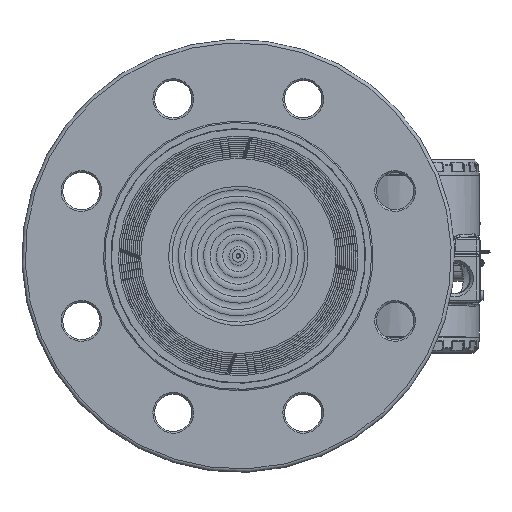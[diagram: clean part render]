
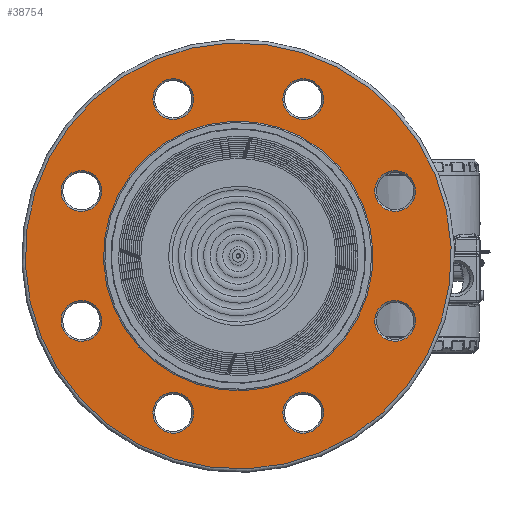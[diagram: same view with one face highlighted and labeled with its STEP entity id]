
A CAD part, top view. The second image highlights one B-rep face of the part: STEP entity #38754.
In plain terms, the highlighted planar face has unit normal (0, 0, 1) as drawn and (-1, 0, 0) by its records, which use the part's own axes.
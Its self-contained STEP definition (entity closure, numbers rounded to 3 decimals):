
#753=FACE_BOUND('',#6589,.T.);
#754=FACE_BOUND('',#6590,.T.);
#755=FACE_BOUND('',#6591,.T.);
#756=FACE_BOUND('',#6592,.T.);
#757=FACE_BOUND('',#6593,.T.);
#758=FACE_BOUND('',#6594,.T.);
#759=FACE_BOUND('',#6595,.T.);
#760=FACE_BOUND('',#6596,.T.);
#761=FACE_BOUND('',#6597,.T.);
#2735=PLANE('',#43057);
#3944=FACE_OUTER_BOUND('',#6588,.T.);
#6588=EDGE_LOOP('',(#29630,#29631));
#6589=EDGE_LOOP('',(#29632));
#6590=EDGE_LOOP('',(#29633));
#6591=EDGE_LOOP('',(#29634));
#6592=EDGE_LOOP('',(#29635));
#6593=EDGE_LOOP('',(#29636,#29637));
#6594=EDGE_LOOP('',(#29638));
#6595=EDGE_LOOP('',(#29639));
#6596=EDGE_LOOP('',(#29640));
#6597=EDGE_LOOP('',(#29641));
#12424=CIRCLE('',#43056,12.);
#12425=CIRCLE('',#43058,125.5);
#12426=CIRCLE('',#43059,125.5);
#12427=CIRCLE('',#43060,12.);
#12428=CIRCLE('',#43061,12.);
#12429=CIRCLE('',#43062,12.);
#12430=CIRCLE('',#43063,12.);
#12431=CIRCLE('',#43064,79.4);
#12432=CIRCLE('',#43065,79.4);
#12433=CIRCLE('',#43066,12.);
#12434=CIRCLE('',#43067,12.);
#12435=CIRCLE('',#43068,12.);
#16915=VERTEX_POINT('',#69073);
#16916=VERTEX_POINT('',#69077);
#16917=VERTEX_POINT('',#69078);
#16918=VERTEX_POINT('',#69081);
#16919=VERTEX_POINT('',#69083);
#16920=VERTEX_POINT('',#69085);
#16921=VERTEX_POINT('',#69087);
#16922=VERTEX_POINT('',#69089);
#16923=VERTEX_POINT('',#69090);
#16924=VERTEX_POINT('',#69093);
#16925=VERTEX_POINT('',#69095);
#16926=VERTEX_POINT('',#69097);
#21394=EDGE_CURVE('',#16915,#16915,#12424,.T.);
#21396=EDGE_CURVE('',#16916,#16917,#12425,.T.);
#21397=EDGE_CURVE('',#16917,#16916,#12426,.T.);
#21398=EDGE_CURVE('',#16918,#16918,#12427,.T.);
#21399=EDGE_CURVE('',#16919,#16919,#12428,.T.);
#21400=EDGE_CURVE('',#16920,#16920,#12429,.T.);
#21401=EDGE_CURVE('',#16921,#16921,#12430,.T.);
#21402=EDGE_CURVE('',#16922,#16923,#12431,.T.);
#21403=EDGE_CURVE('',#16923,#16922,#12432,.T.);
#21404=EDGE_CURVE('',#16924,#16924,#12433,.T.);
#21405=EDGE_CURVE('',#16925,#16925,#12434,.T.);
#21406=EDGE_CURVE('',#16926,#16926,#12435,.T.);
#29630=ORIENTED_EDGE('',*,*,#21396,.F.);
#29631=ORIENTED_EDGE('',*,*,#21397,.F.);
#29632=ORIENTED_EDGE('',*,*,#21398,.F.);
#29633=ORIENTED_EDGE('',*,*,#21399,.F.);
#29634=ORIENTED_EDGE('',*,*,#21400,.F.);
#29635=ORIENTED_EDGE('',*,*,#21401,.F.);
#29636=ORIENTED_EDGE('',*,*,#21402,.T.);
#29637=ORIENTED_EDGE('',*,*,#21403,.T.);
#29638=ORIENTED_EDGE('',*,*,#21404,.F.);
#29639=ORIENTED_EDGE('',*,*,#21405,.F.);
#29640=ORIENTED_EDGE('',*,*,#21406,.F.);
#29641=ORIENTED_EDGE('',*,*,#21394,.F.);
#38754=ADVANCED_FACE('',(#3944,#753,#754,#755,#756,#757,#758,#759,#760,
#761),#2735,.T.);
#43056=AXIS2_PLACEMENT_3D('',#69074,#50989,#50990);
#43057=AXIS2_PLACEMENT_3D('',#69076,#50992,#50993);
#43058=AXIS2_PLACEMENT_3D('',#69079,#50994,#50995);
#43059=AXIS2_PLACEMENT_3D('',#69080,#50996,#50997);
#43060=AXIS2_PLACEMENT_3D('',#69082,#50998,#50999);
#43061=AXIS2_PLACEMENT_3D('',#69084,#51000,#51001);
#43062=AXIS2_PLACEMENT_3D('',#69086,#51002,#51003);
#43063=AXIS2_PLACEMENT_3D('',#69088,#51004,#51005);
#43064=AXIS2_PLACEMENT_3D('',#69091,#51006,#51007);
#43065=AXIS2_PLACEMENT_3D('',#69092,#51008,#51009);
#43066=AXIS2_PLACEMENT_3D('',#69094,#51010,#51011);
#43067=AXIS2_PLACEMENT_3D('',#69096,#51012,#51013);
#43068=AXIS2_PLACEMENT_3D('',#69098,#51014,#51015);
#50989=DIRECTION('center_axis',(-1.,0.,0.));
#50990=DIRECTION('ref_axis',(0.,-0.707,-0.707));
#50992=DIRECTION('center_axis',(-1.,0.,0.));
#50993=DIRECTION('ref_axis',(0.,0.,1.));
#50994=DIRECTION('center_axis',(1.,0.,0.));
#50995=DIRECTION('ref_axis',(0.,1.,0.));
#50996=DIRECTION('center_axis',(1.,0.,0.));
#50997=DIRECTION('ref_axis',(0.,1.,0.));
#50998=DIRECTION('center_axis',(-1.,0.,0.));
#50999=DIRECTION('ref_axis',(0.,-1.,0.));
#51000=DIRECTION('center_axis',(-1.,0.,0.));
#51001=DIRECTION('ref_axis',(0.,0.,1.));
#51002=DIRECTION('center_axis',(-1.,0.,0.));
#51003=DIRECTION('ref_axis',(0.,1.,0.));
#51004=DIRECTION('center_axis',(-1.,0.,0.));
#51005=DIRECTION('ref_axis',(0.,0.,-1.));
#51006=DIRECTION('center_axis',(1.,0.,0.));
#51007=DIRECTION('ref_axis',(0.,1.,0.));
#51008=DIRECTION('center_axis',(1.,0.,0.));
#51009=DIRECTION('ref_axis',(0.,1.,0.));
#51010=DIRECTION('center_axis',(-1.,0.,0.));
#51011=DIRECTION('ref_axis',(0.,0.707,-0.707));
#51012=DIRECTION('center_axis',(-1.,0.,0.));
#51013=DIRECTION('ref_axis',(0.,0.707,0.707));
#51014=DIRECTION('center_axis',(-1.,0.,0.));
#51015=DIRECTION('ref_axis',(0.,-0.707,0.707));
#69073=CARTESIAN_POINT('',(2.,79.196,79.196));
#69074=CARTESIAN_POINT('Origin',(2.,70.711,70.711));
#69076=CARTESIAN_POINT('Origin',(2.,102.45,0.));
#69077=CARTESIAN_POINT('',(2.,125.5,0.));
#69078=CARTESIAN_POINT('',(2.,0.,125.5));
#69079=CARTESIAN_POINT('Origin',(2.,0.,0.));
#69080=CARTESIAN_POINT('Origin',(2.,0.,0.));
#69081=CARTESIAN_POINT('',(2.,112.,0.));
#69082=CARTESIAN_POINT('Origin',(2.,100.,0.));
#69083=CARTESIAN_POINT('',(2.,0.,-112.));
#69084=CARTESIAN_POINT('Origin',(2.,0.,-100.));
#69085=CARTESIAN_POINT('',(2.,-112.,0.));
#69086=CARTESIAN_POINT('Origin',(2.,-100.,0.));
#69087=CARTESIAN_POINT('',(2.,0.,112.));
#69088=CARTESIAN_POINT('Origin',(2.,0.,100.));
#69089=CARTESIAN_POINT('',(2.,79.4,0.));
#69090=CARTESIAN_POINT('',(2.,0.,79.4));
#69091=CARTESIAN_POINT('Origin',(2.,0.,0.));
#69092=CARTESIAN_POINT('Origin',(2.,0.,0.));
#69093=CARTESIAN_POINT('',(2.,-79.196,79.196));
#69094=CARTESIAN_POINT('Origin',(2.,-70.711,70.711));
#69095=CARTESIAN_POINT('',(2.,-79.196,-79.196));
#69096=CARTESIAN_POINT('Origin',(2.,-70.711,-70.711));
#69097=CARTESIAN_POINT('',(2.,79.196,-79.196));
#69098=CARTESIAN_POINT('Origin',(2.,70.711,-70.711));
